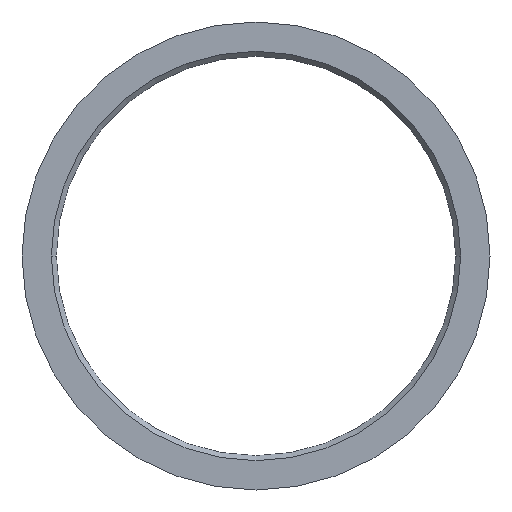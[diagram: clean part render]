
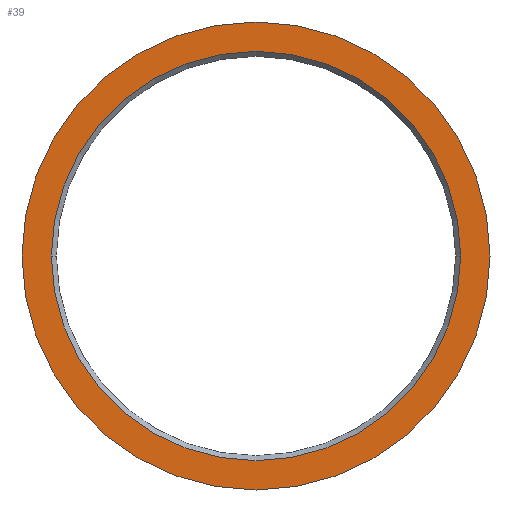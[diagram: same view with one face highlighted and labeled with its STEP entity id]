
A CAD part, left-side view. The second image highlights one B-rep face of the part: STEP entity #39.
In plain terms, the highlighted planar face has unit normal (-1, 0, 0).
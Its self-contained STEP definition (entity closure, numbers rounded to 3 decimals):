
#32=FACE_BOUND('',#60,.F.);
#34=PLANE('',#197);
#39=ADVANCED_FACE('',(#32,#49),#34,.T.);
#49=FACE_OUTER_BOUND('',#61,.F.);
#60=EDGE_LOOP('',(#83,#84));
#61=EDGE_LOOP('',(#85,#86));
#83=ORIENTED_EDGE('',*,*,#138,.T.);
#84=ORIENTED_EDGE('',*,*,#136,.T.);
#85=ORIENTED_EDGE('',*,*,#149,.F.);
#86=ORIENTED_EDGE('',*,*,#143,.F.);
#136=EDGE_CURVE('',#176,#175,#156,.T.);
#138=EDGE_CURVE('',#175,#176,#158,.T.);
#143=EDGE_CURVE('',#170,#169,#163,.T.);
#149=EDGE_CURVE('',#169,#170,#165,.T.);
#156=CIRCLE('',#182,20.55);
#158=CIRCLE('',#184,20.55);
#163=CIRCLE('',#189,23.5);
#165=CIRCLE('',#191,23.5);
#169=VERTEX_POINT('',#263);
#170=VERTEX_POINT('',#264);
#175=VERTEX_POINT('',#269);
#176=VERTEX_POINT('',#270);
#182=AXIS2_PLACEMENT_3D('',#274,#208,#209);
#184=AXIS2_PLACEMENT_3D('',#276,#212,#213);
#189=AXIS2_PLACEMENT_3D('',#281,#222,#223);
#191=AXIS2_PLACEMENT_3D('',#287,#230,#231);
#197=AXIS2_PLACEMENT_3D('',#297,#246,#247);
#208=DIRECTION('',(-1.,0.,0.));
#209=DIRECTION('',(0.,-1.,0.));
#212=DIRECTION('',(-1.,0.,0.));
#213=DIRECTION('',(0.,1.,0.));
#222=DIRECTION('',(-1.,0.,0.));
#223=DIRECTION('',(0.,1.,0.));
#230=DIRECTION('',(-1.,0.,0.));
#231=DIRECTION('',(0.,-1.,0.));
#246=DIRECTION('',(-1.,0.,0.));
#247=DIRECTION('',(0.,0.,-1.));
#263=CARTESIAN_POINT('',(1077.375,395.752,456.874));
#264=CARTESIAN_POINT('',(1077.375,442.752,456.874));
#269=CARTESIAN_POINT('',(1077.375,439.802,456.874));
#270=CARTESIAN_POINT('',(1077.375,398.702,456.874));
#274=CARTESIAN_POINT('',(1077.375,419.252,456.874));
#276=CARTESIAN_POINT('',(1077.375,419.252,456.874));
#281=CARTESIAN_POINT('',(1077.375,419.252,456.874));
#287=CARTESIAN_POINT('',(1077.375,419.252,456.874));
#297=CARTESIAN_POINT('',(1077.375,443.222,480.844));
